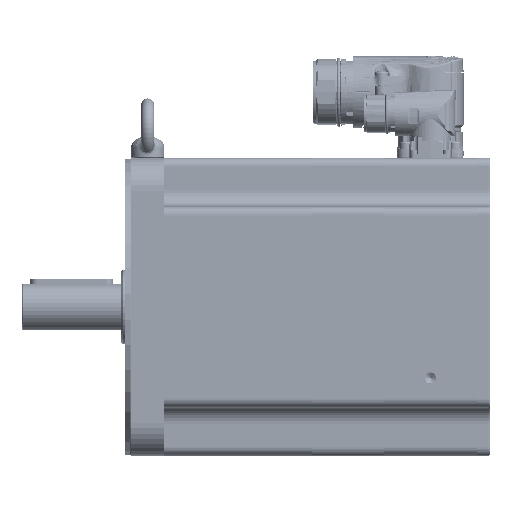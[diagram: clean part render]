
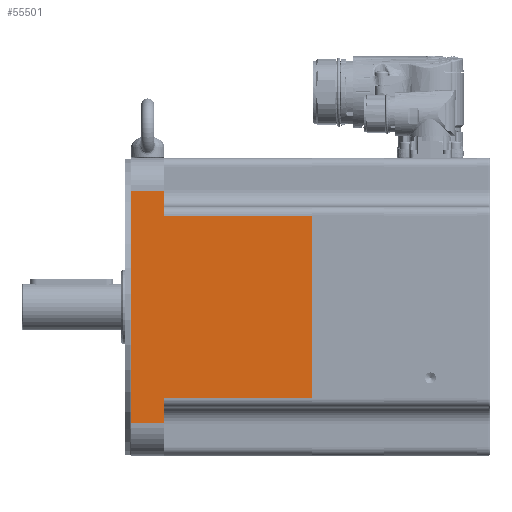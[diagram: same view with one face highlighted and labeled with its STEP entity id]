
A CAD part, left-side view. The second image highlights one B-rep face of the part: STEP entity #55501.
In plain terms, the highlighted planar face has unit normal (-1, 0, 0) as drawn and (1, 0, 0) by its records, which use the part's own axes.
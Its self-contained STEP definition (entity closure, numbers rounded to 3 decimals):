
#5020=PLANE('',#81548);
#21453=ORIENTED_EDGE('',*,*,#30573,.F.);
#21454=ORIENTED_EDGE('',*,*,#30641,.T.);
#21455=ORIENTED_EDGE('',*,*,#30609,.F.);
#21456=ORIENTED_EDGE('',*,*,#30642,.T.);
#21457=ORIENTED_EDGE('',*,*,#30643,.F.);
#21458=ORIENTED_EDGE('',*,*,#30644,.T.);
#21459=ORIENTED_EDGE('',*,*,#30629,.F.);
#21460=ORIENTED_EDGE('',*,*,#30645,.T.);
#30573=EDGE_CURVE('',#36298,#36299,#39817,.T.);
#30609=EDGE_CURVE('',#36334,#36335,#39831,.T.);
#30629=EDGE_CURVE('',#36354,#36355,#39838,.T.);
#30641=EDGE_CURVE('',#36298,#36335,#39846,.F.);
#30642=EDGE_CURVE('',#36334,#36362,#39847,.T.);
#30643=EDGE_CURVE('',#36363,#36362,#39848,.T.);
#30644=EDGE_CURVE('',#36363,#36355,#39849,.F.);
#30645=EDGE_CURVE('',#36354,#36299,#39850,.T.);
#36298=VERTEX_POINT('',#155559);
#36299=VERTEX_POINT('',#155561);
#36334=VERTEX_POINT('',#155639);
#36335=VERTEX_POINT('',#155641);
#36354=VERTEX_POINT('',#155686);
#36355=VERTEX_POINT('',#155687);
#36362=VERTEX_POINT('',#155711);
#36363=VERTEX_POINT('',#155713);
#39817=LINE('',#155560,#42925);
#39831=LINE('',#155640,#42939);
#39838=LINE('',#155685,#42946);
#39846=LINE('',#155709,#42954);
#39847=LINE('',#155710,#42955);
#39848=LINE('',#155712,#42956);
#39849=LINE('',#155714,#42957);
#39850=LINE('',#155715,#42958);
#42925=VECTOR('',#94454,1000.);
#42939=VECTOR('',#94528,1000.);
#42946=VECTOR('',#94573,1000.);
#42954=VECTOR('',#94597,1000.);
#42955=VECTOR('',#94598,1000.);
#42956=VECTOR('',#94599,1000.);
#42957=VECTOR('',#94600,1000.);
#42958=VECTOR('',#94601,1000.);
#46846=EDGE_LOOP('',(#21453,#21454,#21455,#21456,#21457,#21458,#21459,#21460));
#51083=FACE_BOUND('',#46846,.T.);
#55501=ADVANCED_FACE('',(#51083),#5020,.T.);
#81548=AXIS2_PLACEMENT_3D('',#155708,#94595,#94596);
#94454=DIRECTION('',(0.,0.,-1.));
#94528=DIRECTION('',(0.,0.,-1.));
#94573=DIRECTION('',(0.,0.,-1.));
#94595=DIRECTION('',(1.,0.,0.));
#94596=DIRECTION('',(0.,1.,0.));
#94597=DIRECTION('',(0.,1.,0.));
#94598=DIRECTION('',(0.,-1.,0.));
#94599=DIRECTION('',(0.,0.,1.));
#94600=DIRECTION('',(0.,-1.,0.));
#94601=DIRECTION('',(0.,1.,0.));
#155559=CARTESIAN_POINT('',(90.,110.8,55.2));
#155560=CARTESIAN_POINT('',(90.,110.8,-90.));
#155561=CARTESIAN_POINT('',(90.,110.8,-55.2));
#155639=CARTESIAN_POINT('',(90.,21.3,70.));
#155640=CARTESIAN_POINT('',(90.,21.3,-90.));
#155641=CARTESIAN_POINT('',(90.,21.3,55.2));
#155685=CARTESIAN_POINT('',(90.,21.3,-90.));
#155686=CARTESIAN_POINT('',(90.,21.3,-55.2));
#155687=CARTESIAN_POINT('',(90.,21.3,-70.));
#155708=CARTESIAN_POINT('',(90.,491.763,-90.));
#155709=CARTESIAN_POINT('',(90.,491.763,55.2));
#155710=CARTESIAN_POINT('',(90.,491.763,70.));
#155711=CARTESIAN_POINT('',(90.,1.3,70.));
#155712=CARTESIAN_POINT('',(90.,1.3,-90.));
#155713=CARTESIAN_POINT('',(90.,1.3,-70.));
#155714=CARTESIAN_POINT('',(90.,491.763,-70.));
#155715=CARTESIAN_POINT('',(90.,491.763,-55.2));
